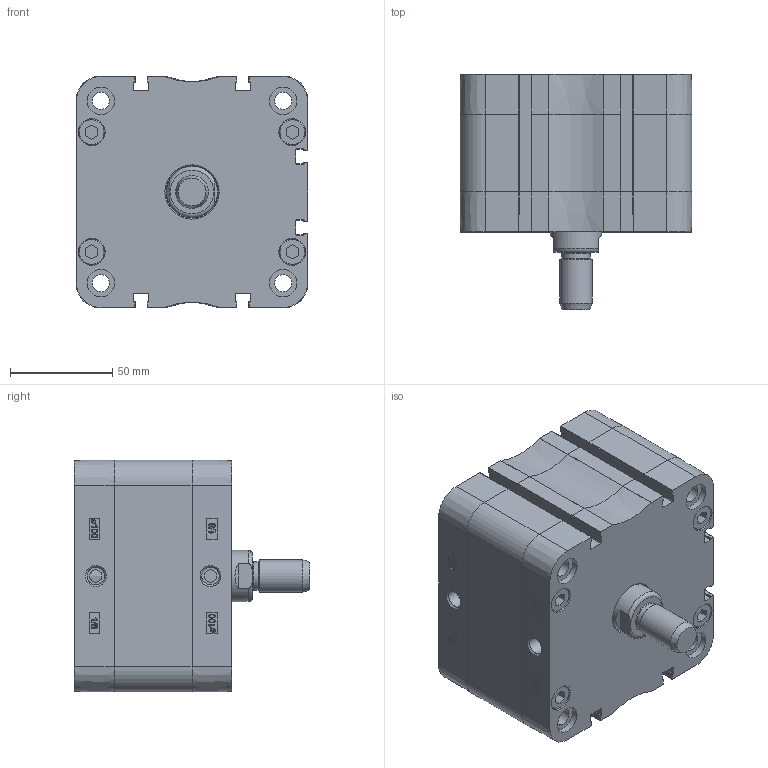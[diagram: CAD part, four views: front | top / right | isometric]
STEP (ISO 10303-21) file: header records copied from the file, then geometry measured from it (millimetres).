
FILE_DESCRIPTION((''),'2;1');
FILE_NAME('T:\Archivio Inventor\- CATALOGHI 2012\SERIE P - NUOVA\PDM\PDM100\PDM100.---.GS.M\PDM100.010.GS.M.stp','2013-02-05T11:37:36',('Administrator'),(''),'Autodesk Inventor 2012','Autodesk Inventor 2012','');
FILE_SCHEMA(('CONFIG_CONTROL_DESIGN'));
Length unit declared in the file: millimetre
Products named in the file (1): PDM100.010.GS.M
Bounding box: 113.3 x 115 x 113.3 mm (x, y, z)
Volume: 529700.1 mm3; surface area: 145015.6 mm2
Topology: 1 solids, 5 shells, 908 faces, 2152 edges, 1320 vertices
Faces by surface type: plane 371, bspline 226, cylinder 148, cone 81, torus 58, sphere 24
Full cylindrical faces by diameter (mm): 6 x2, 8.3 x4, 8.376 x8, 8.566 x2, 9.976 x4, 12 x1, 12.7 x8, 13.1 x8, 13.5 x8, 14 x1, 16 x1, 25 x1, 25.5 x1, 100 x1, 103.5 x1, 103.7 x1
Entity records: 29727 total; most frequent: CARTESIAN_POINT 9763, ORIENTED_EDGE 4062, DIRECTION 3416, EDGE_CURVE 2031, VERTEX_POINT 1299, AXIS2_PLACEMENT_3D 1216, EDGE_LOOP 1088, VECTOR 984
